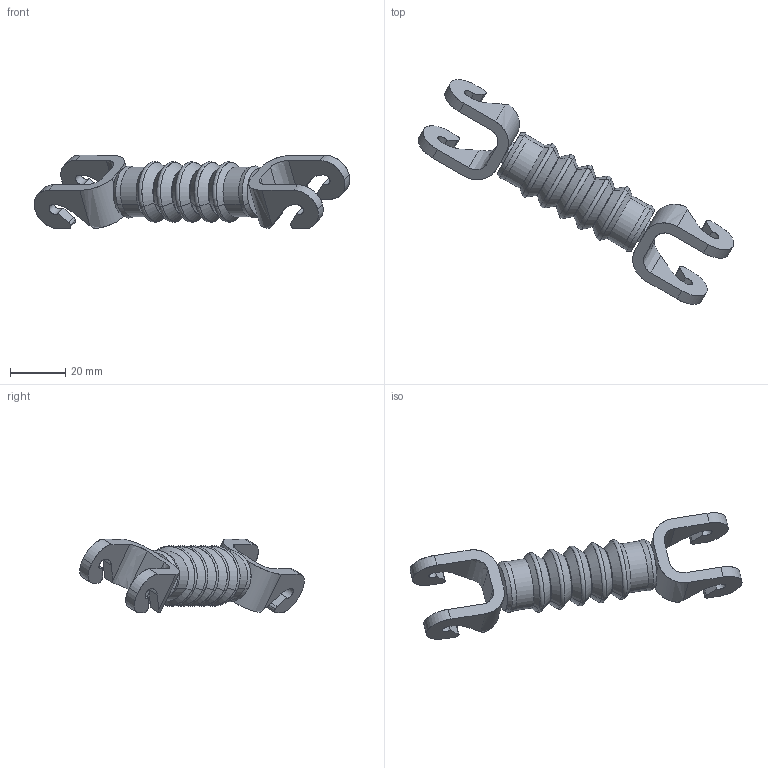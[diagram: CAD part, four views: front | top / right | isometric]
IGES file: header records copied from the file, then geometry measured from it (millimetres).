
Start section: SolidWorks IGES file using analytic representation for surfaces
Global section: file name: C:\Users\SELUHAA\Desktop\Work items\545792\IGES\IRB360_X-800-STD-4D_rev03_IGES_J\IRB360_X-800-STD-4D_rev03_LA2_CL_CAD.IGS; native system: SolidWorks 2022; preprocessor: SolidWorks 2022; author: SELUHAA; date: 231128.112151; units: millimetre
Bounding box: 114.07 x 81.14 x 26.67 mm (x, y, z)
Surface area: 10290.8 mm2 (no closed solid volume)
Topology: 0 solids, 0 shells, 134 faces, 1216 edges, 1216 vertices
Faces by surface type: bspline 68, revolution 66
